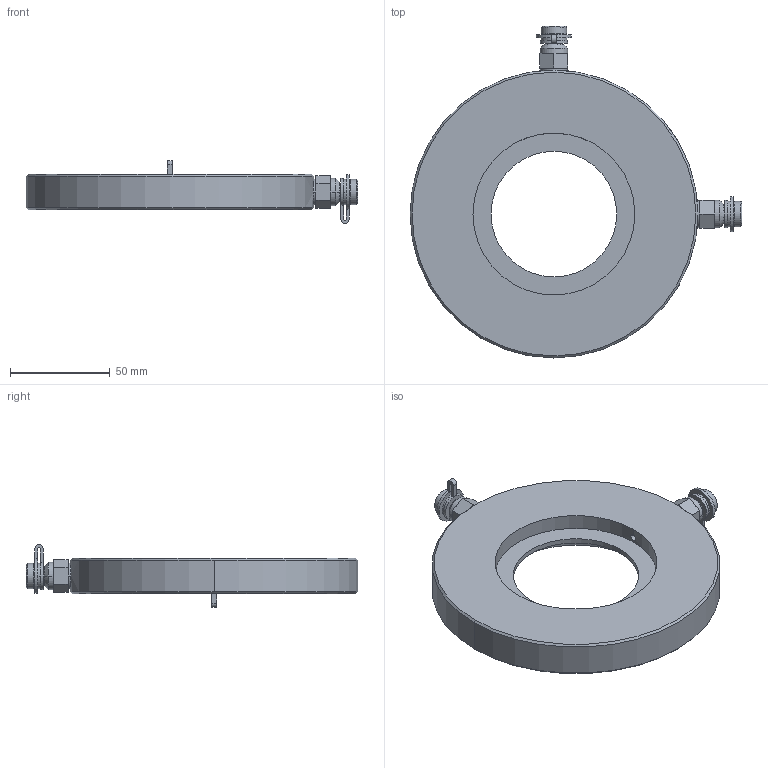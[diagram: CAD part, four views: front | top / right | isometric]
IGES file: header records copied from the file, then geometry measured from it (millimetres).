
Global section: file name: No Iges File Name specified; native system: AutoDesk Inventor R12.0; preprocessor: AutoDesk Inventor Iges Exporter R12.0; date: 20101223.100334; units: millimetre
Bounding box: 166.1 x 166.1 x 31.45 mm (x, y, z)
Volume: 211473 mm3; surface area: 42004.6 mm2
Topology: 1 solids, 1 shells, 125 faces, 288 edges, 184 vertices
Faces by surface type: plane 48, cylinder 29, bspline 18, cone 16, revolution 14
